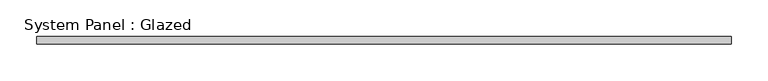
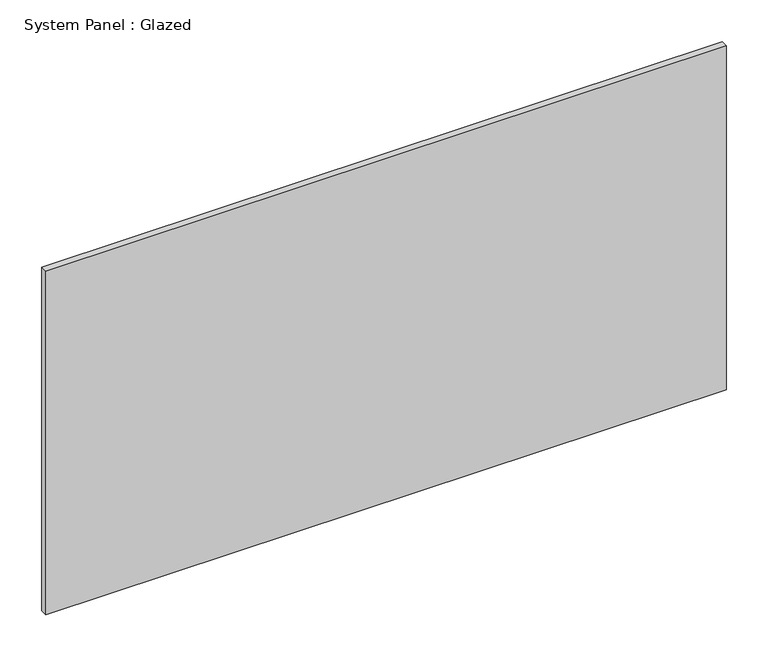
"""IFC4 building model written with IfcOpenShell, lengths in millimetres: plate geometry, System Panel : Glazed."""

from ifc_helpers import new_model, si_unit, origin, origin_with_axes, place, context, project, spatial, polyline, outline, extrude, source, transform, mapped, element, save


def system_panel_glazed_2034ba11(model_context):
    return source(origin(), model_context, "Body", "SweptSolid", [
        extrude(outline(polyline([(471.3037323, -5.0), (-471.3037323, -5.0), (-471.3037323, 5.0), (471.3037323, 5.0), (471.3037323, -5.0)])), origin_with_axes(), (0.0, 0.0, 1.0), 503.3333333),
    ])


if __name__ == "__main__":
    model = new_model("IFC4")
    model_context = context("Model", 3, world=origin())
    ifc_project = project(units=[si_unit("LENGTHUNIT", "METRE", prefix="MILLI")], contexts=[model_context])
    site = spatial("IfcSite", under=ifc_project)
    building = spatial("IfcBuilding", under=site)
    placement = place(None, origin())
    system_panel_glazed_shape = system_panel_glazed_2034ba11(model_context)
    element("IfcPlate", 1, ObjectType="System Panel : Glazed", at=placement, inside=building, context=model_context, shape_type="MappedRepresentation", body=[
        mapped(system_panel_glazed_shape, transform((0.0, 0.0, 0.0), x_axis=(1.0, 0.0, 0.0), y_axis=(0.0, 1.0, 0.0), z_axis=(0.0, 0.0, 1.0))),
    ])
    save(model, "model.ifc")
